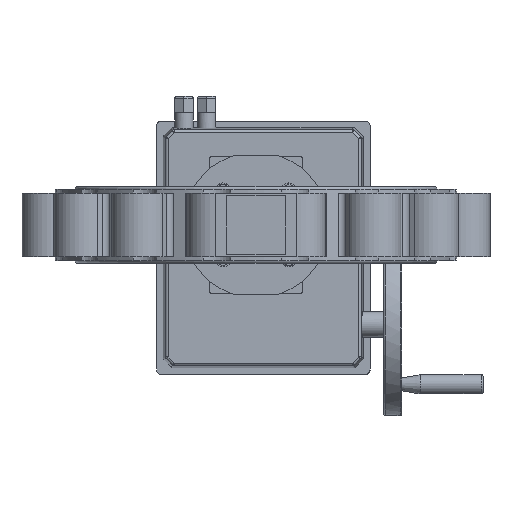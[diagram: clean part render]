
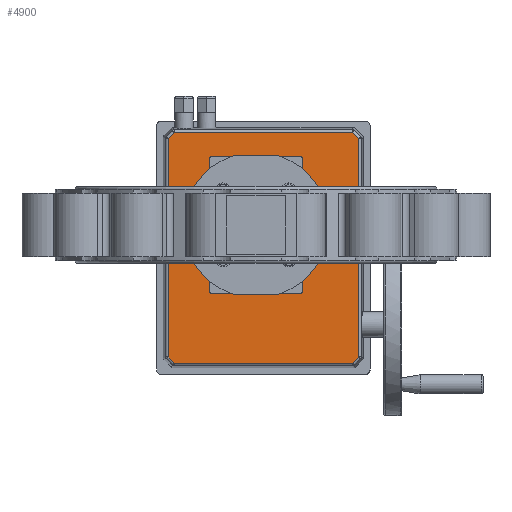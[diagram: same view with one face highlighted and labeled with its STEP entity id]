
A CAD part, front view. The second image highlights one B-rep face of the part: STEP entity #4900.
In plain terms, the highlighted planar face has unit normal (0, -1, 0).
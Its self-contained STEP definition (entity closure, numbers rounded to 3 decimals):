
#282 = DIRECTION ( 'NONE',  ( 0., 0., 1. ) ) ;
#309 = CARTESIAN_POINT ( 'NONE',  ( -95.915, -75., 112.484 ) ) ;
#400 = ORIENTED_EDGE ( 'NONE', *, *, #22476, .T. ) ;
#673 = LINE ( 'NONE', #6150, #7631 ) ;
#925 = VECTOR ( 'NONE', #5817, 1000. ) ;
#1236 = DIRECTION ( 'NONE',  ( 0., 0., 1. ) ) ;
#1613 = CARTESIAN_POINT ( 'NONE',  ( 75., -75., -48. ) ) ;
#1663 = VECTOR ( 'NONE', #16326, 1000. ) ;
#2369 = VERTEX_POINT ( 'NONE', #15516 ) ;
#2547 = CARTESIAN_POINT ( 'NONE',  ( 75., -75., 0. ) ) ;
#2704 = ORIENTED_EDGE ( 'NONE', *, *, #30241, .T. ) ;
#2755 = EDGE_CURVE ( 'NONE', #19935, #5987, #24207, .T. ) ;
#3200 = EDGE_CURVE ( 'NONE', #8946, #31357, #12266, .T. ) ;
#3214 = VECTOR ( 'NONE', #11053, 1000. ) ;
#3694 = LINE ( 'NONE', #30296, #925 ) ;
#4215 = CARTESIAN_POINT ( 'NONE',  ( -101.484, -75., 105.715 ) ) ;
#4819 = DIRECTION ( 'NONE',  ( 0., 1., 0. ) ) ;
#4900 = ADVANCED_FACE ( 'NONE', ( #19134, #6820 ), #26609, .F. ) ;
#4987 = DIRECTION ( 'NONE',  ( -1., 0., 0. ) ) ;
#5548 = VECTOR ( 'NONE', #16410, 1000. ) ;
#5817 = DIRECTION ( 'NONE',  ( -0.707, 0., 0.707 ) ) ;
#5983 = AXIS2_PLACEMENT_3D ( 'NONE', #14435, #17192, #12307 ) ;
#5987 = VERTEX_POINT ( 'NONE', #20095 ) ;
#6150 = CARTESIAN_POINT ( 'NONE',  ( 0., -75., -51. ) ) ;
#6820 = FACE_BOUND ( 'NONE', #24384, .T. ) ;
#6917 = VERTEX_POINT ( 'NONE', #28599 ) ;
#7113 = VERTEX_POINT ( 'NONE', #21808 ) ;
#7419 = DIRECTION ( 'NONE',  ( 0., 0., -1. ) ) ;
#7467 = EDGE_CURVE ( 'NONE', #5987, #31307, #30528, .T. ) ;
#7631 = VECTOR ( 'NONE', #17986, 1000. ) ;
#7643 = VERTEX_POINT ( 'NONE', #19798 ) ;
#7779 = EDGE_CURVE ( 'NONE', #26203, #31357, #673, .T. ) ;
#7902 = VECTOR ( 'NONE', #27705, 1000. ) ;
#8153 = VERTEX_POINT ( 'NONE', #30451 ) ;
#8200 = VERTEX_POINT ( 'NONE', #30780 ) ;
#8563 = VERTEX_POINT ( 'NONE', #30703 ) ;
#8866 = EDGE_CURVE ( 'NONE', #20878, #7643, #30493, .T. ) ;
#8946 = VERTEX_POINT ( 'NONE', #1613 ) ;
#9200 = EDGE_CURVE ( 'NONE', #31307, #2369, #3694, .T. ) ;
#9505 = EDGE_CURVE ( 'NONE', #8200, #8946, #17609, .T. ) ;
#9535 = ORIENTED_EDGE ( 'NONE', *, *, #7779, .F. ) ;
#9599 = LINE ( 'NONE', #26798, #25368 ) ;
#9629 = ORIENTED_EDGE ( 'NONE', *, *, #9200, .T. ) ;
#10254 = DIRECTION ( 'NONE',  ( 0., 0., 1. ) ) ;
#10302 = EDGE_CURVE ( 'NONE', #2369, #6917, #24966, .T. ) ;
#10541 = ORIENTED_EDGE ( 'NONE', *, *, #7467, .T. ) ;
#10876 = LINE ( 'NONE', #20799, #3214 ) ;
#11053 = DIRECTION ( 'NONE',  ( 0., 0., -1. ) ) ;
#11055 = DIRECTION ( 'NONE',  ( 0., 0., 1. ) ) ;
#11430 = CARTESIAN_POINT ( 'NONE',  ( -72., -75., 48. ) ) ;
#11844 = CARTESIAN_POINT ( 'NONE',  ( 0., -75., -96.484 ) ) ;
#11976 = VECTOR ( 'NONE', #31003, 1000. ) ;
#12223 = EDGE_CURVE ( 'NONE', #30510, #8153, #9599, .T. ) ;
#12229 = ORIENTED_EDGE ( 'NONE', *, *, #25036, .T. ) ;
#12266 = CIRCLE ( 'NONE', #31441, 3. ) ;
#12307 = DIRECTION ( 'NONE',  ( 0., 0., 1. ) ) ;
#12648 = ORIENTED_EDGE ( 'NONE', *, *, #8866, .T. ) ;
#12857 = CARTESIAN_POINT ( 'NONE',  ( 72., -75., 48. ) ) ;
#13242 = ORIENTED_EDGE ( 'NONE', *, *, #16511, .T. ) ;
#13628 = CARTESIAN_POINT ( 'NONE',  ( -95.6, -75., -95.6 ) ) ;
#14252 = CARTESIAN_POINT ( 'NONE',  ( -72., -75., 51. ) ) ;
#14435 = CARTESIAN_POINT ( 'NONE',  ( 0., -75., 0. ) ) ;
#14605 = ORIENTED_EDGE ( 'NONE', *, *, #3200, .T. ) ;
#14926 = AXIS2_PLACEMENT_3D ( 'NONE', #11430, #16466, #1236 ) ;
#14976 = VECTOR ( 'NONE', #4987, 1000. ) ;
#15256 = CIRCLE ( 'NONE', #19397, 3. ) ;
#15516 = CARTESIAN_POINT ( 'NONE',  ( 144.715, -75., 112.484 ) ) ;
#16326 = DIRECTION ( 'NONE',  ( 0., 0., -1. ) ) ;
#16410 = DIRECTION ( 'NONE',  ( 0.707, 0., 0.707 ) ) ;
#16466 = DIRECTION ( 'NONE',  ( 0., 1., 0. ) ) ;
#16511 = EDGE_CURVE ( 'NONE', #7113, #30510, #19570, .T. ) ;
#16607 = ORIENTED_EDGE ( 'NONE', *, *, #18435, .T. ) ;
#16764 = CARTESIAN_POINT ( 'NONE',  ( 151.484, -75., 105.715 ) ) ;
#17169 = CARTESIAN_POINT ( 'NONE',  ( 144.715, -75., -96.484 ) ) ;
#17192 = DIRECTION ( 'NONE',  ( 0., 1., 0. ) ) ;
#17609 = LINE ( 'NONE', #2547, #19060 ) ;
#17986 = DIRECTION ( 'NONE',  ( 1., 0., 0. ) ) ;
#18352 = CARTESIAN_POINT ( 'NONE',  ( 151.484, -75., 0. ) ) ;
#18435 = EDGE_CURVE ( 'NONE', #8153, #8200, #15256, .T. ) ;
#18744 = CARTESIAN_POINT ( 'NONE',  ( -75., -75., 0. ) ) ;
#19060 = VECTOR ( 'NONE', #7419, 1000. ) ;
#19109 = ORIENTED_EDGE ( 'NONE', *, *, #23346, .F. ) ;
#19134 = FACE_OUTER_BOUND ( 'NONE', #26838, .T. ) ;
#19397 = AXIS2_PLACEMENT_3D ( 'NONE', #12857, #22300, #10254 ) ;
#19570 = CIRCLE ( 'NONE', #14926, 3. ) ;
#19798 = CARTESIAN_POINT ( 'NONE',  ( -94.715, -75., -96.484 ) ) ;
#19935 = VERTEX_POINT ( 'NONE', #17169 ) ;
#20095 = CARTESIAN_POINT ( 'NONE',  ( 151.484, -75., -89.715 ) ) ;
#20799 = CARTESIAN_POINT ( 'NONE',  ( -101.484, -75., -90.915 ) ) ;
#20878 = VERTEX_POINT ( 'NONE', #30494 ) ;
#21612 = DIRECTION ( 'NONE',  ( 1., 0., 0. ) ) ;
#21808 = CARTESIAN_POINT ( 'NONE',  ( -75., -75., 48. ) ) ;
#22300 = DIRECTION ( 'NONE',  ( 0., 1., 0. ) ) ;
#22476 = EDGE_CURVE ( 'NONE', #26203, #8563, #29078, .T. ) ;
#22632 = ORIENTED_EDGE ( 'NONE', *, *, #30754, .T. ) ;
#23346 = EDGE_CURVE ( 'NONE', #7113, #8563, #28324, .T. ) ;
#23371 = AXIS2_PLACEMENT_3D ( 'NONE', #24464, #4819, #29479 ) ;
#23893 = CARTESIAN_POINT ( 'NONE',  ( 120.6, -75., -120.6 ) ) ;
#24207 = LINE ( 'NONE', #23893, #5548 ) ;
#24384 = EDGE_LOOP ( 'NONE', ( #19109, #13242, #28322, #16607, #30579, #14605, #9535, #400 ) ) ;
#24464 = CARTESIAN_POINT ( 'NONE',  ( -72., -75., -48. ) ) ;
#24966 = LINE ( 'NONE', #309, #14976 ) ;
#25036 = EDGE_CURVE ( 'NONE', #31556, #20878, #10876, .T. ) ;
#25097 = CARTESIAN_POINT ( 'NONE',  ( 72., -75., -48. ) ) ;
#25273 = LINE ( 'NONE', #28175, #7902 ) ;
#25368 = VECTOR ( 'NONE', #21612, 1000. ) ;
#26203 = VERTEX_POINT ( 'NONE', #28061 ) ;
#26609 = PLANE ( 'NONE',  #5983 ) ;
#26798 = CARTESIAN_POINT ( 'NONE',  ( 0., -75., 51. ) ) ;
#26838 = EDGE_LOOP ( 'NONE', ( #12229, #12648, #2704, #31112, #10541, #9629, #32009, #22632 ) ) ;
#27523 = DIRECTION ( 'NONE',  ( 0., 1., 0. ) ) ;
#27705 = DIRECTION ( 'NONE',  ( -0.707, 0., -0.707 ) ) ;
#28061 = CARTESIAN_POINT ( 'NONE',  ( -72., -75., -51. ) ) ;
#28062 = DIRECTION ( 'NONE',  ( 0.707, 0., -0.707 ) ) ;
#28175 = CARTESIAN_POINT ( 'NONE',  ( -102.332, -75., 104.867 ) ) ;
#28322 = ORIENTED_EDGE ( 'NONE', *, *, #12223, .T. ) ;
#28324 = LINE ( 'NONE', #18744, #1663 ) ;
#28599 = CARTESIAN_POINT ( 'NONE',  ( -94.715, -75., 112.484 ) ) ;
#29078 = CIRCLE ( 'NONE', #23371, 3. ) ;
#29479 = DIRECTION ( 'NONE',  ( 0., 0., 1. ) ) ;
#30241 = EDGE_CURVE ( 'NONE', #7643, #19935, #31324, .T. ) ;
#30296 = CARTESIAN_POINT ( 'NONE',  ( 128.6, -75., 128.6 ) ) ;
#30451 = CARTESIAN_POINT ( 'NONE',  ( 72., -75., 51. ) ) ;
#30493 = LINE ( 'NONE', #13628, #32025 ) ;
#30494 = CARTESIAN_POINT ( 'NONE',  ( -101.484, -75., -89.715 ) ) ;
#30510 = VERTEX_POINT ( 'NONE', #14252 ) ;
#30528 = LINE ( 'NONE', #18352, #31798 ) ;
#30579 = ORIENTED_EDGE ( 'NONE', *, *, #9505, .T. ) ;
#30703 = CARTESIAN_POINT ( 'NONE',  ( -75., -75., -48. ) ) ;
#30754 = EDGE_CURVE ( 'NONE', #6917, #31556, #25273, .T. ) ;
#30780 = CARTESIAN_POINT ( 'NONE',  ( 75., -75., 48. ) ) ;
#31003 = DIRECTION ( 'NONE',  ( 1., 0., 0. ) ) ;
#31112 = ORIENTED_EDGE ( 'NONE', *, *, #2755, .T. ) ;
#31307 = VERTEX_POINT ( 'NONE', #16764 ) ;
#31324 = LINE ( 'NONE', #11844, #11976 ) ;
#31357 = VERTEX_POINT ( 'NONE', #31370 ) ;
#31370 = CARTESIAN_POINT ( 'NONE',  ( 72., -75., -51. ) ) ;
#31441 = AXIS2_PLACEMENT_3D ( 'NONE', #25097, #27523, #282 ) ;
#31556 = VERTEX_POINT ( 'NONE', #4215 ) ;
#31798 = VECTOR ( 'NONE', #11055, 1000. ) ;
#32009 = ORIENTED_EDGE ( 'NONE', *, *, #10302, .T. ) ;
#32025 = VECTOR ( 'NONE', #28062, 1000. ) ;
